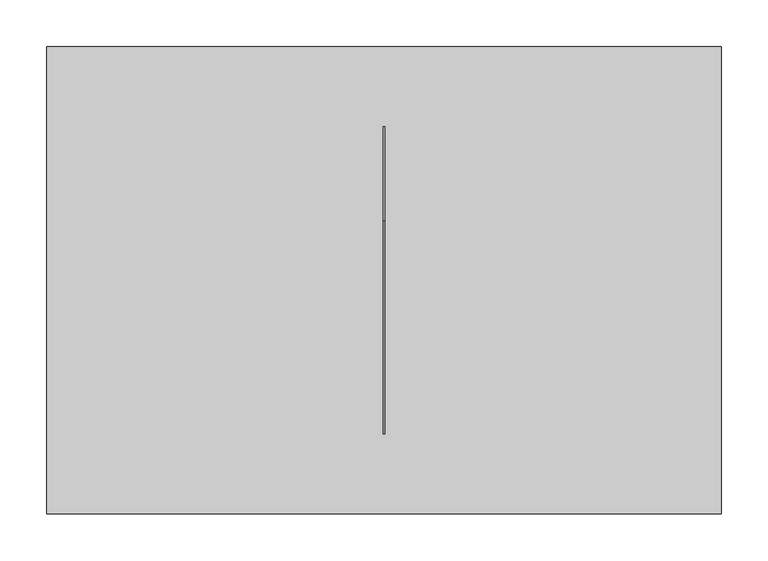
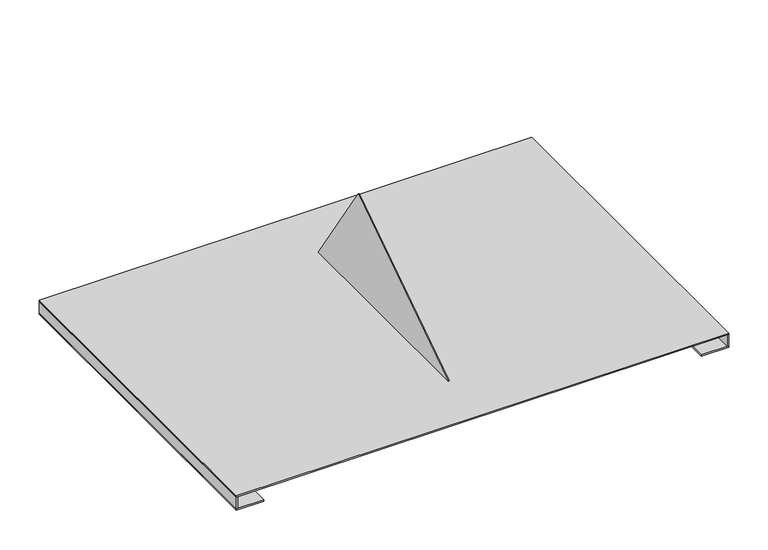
"""IFC4 building model written with IfcOpenShell, lengths in millimetres: furniture geometry, MDO_E_IX_Reloj de sol_PET : MDO_E_IX_Reloj de sol_PET."""

from ifc_helpers import new_model, si_unit, frame, origin, origin_with_axes, place, context, project, spatial, polyline, outline, extrude, source, transform, mapped, element, save


def furniture_0d6fb3f9(model_context):
    return source(origin(), model_context, "Body", "SweptSolid", [
        extrude(outline(polyline([(-358.0, 249.59988), (-358.0, -249.59988), (-360.0, -249.59988), (-360.0, 249.59988), (-358.0, 249.59988)])), frame((0.0, 0.0, 2.0), z_axis=(0.0, 0.0, 1.0), x_axis=(1.0, 0.0, 0.0)), (0.0, 0.0, 1.0), 18.0),
        extrude(outline(polyline([(360.0, 249.59988), (360.0, -249.59988), (358.0, -249.59988), (358.0, 249.59988), (360.0, 249.59988)])), frame((0.0, 0.0, 2.0), z_axis=(0.0, 0.0, 1.0), x_axis=(1.0, 0.0, 0.0)), (0.0, 0.0, 1.0), 18.0),
        extrude(outline(polyline([(-320.0, 249.59988), (-320.0, -249.59988), (-360.0, -249.59988), (-360.0, 249.59988), (-320.0, 249.59988)])), origin_with_axes(), (0.0, 0.0, 1.0), 2.0),
        extrude(outline(polyline([(360.0, 249.59988), (360.0, -249.59988), (320.0, -249.59988), (320.0, 249.59988), (360.0, 249.59988)])), origin_with_axes(), (0.0, 0.0, 1.0), 2.0),
        extrude(outline(polyline([(-164.2371745, 22.0), (63.9213255, 173.3609823), (164.2628255, 22.0), (-164.2371745, 22.0)])), frame((-1.0, 0.0, 0.0), z_axis=(1.0, 0.0, 0.0), x_axis=(0.0, 1.0, 0.0)), (0.0, 0.0, 1.0), 2.0),
        extrude(outline(polyline([(360.0, 249.59988), (360.0, -249.59988), (-360.0, -249.59988), (-360.0, 249.59988), (360.0, 249.59988)])), frame((0.0, 0.0, 20.0), z_axis=(0.0, 0.0, 1.0), x_axis=(1.0, 0.0, 0.0)), (0.0, 0.0, 1.0), 2.0),
    ])


if __name__ == "__main__":
    model = new_model("IFC4")
    model_context = context("Model", 3, world=origin())
    ifc_project = project(units=[si_unit("LENGTHUNIT", "METRE", prefix="MILLI")], contexts=[model_context])
    site = spatial("IfcSite", under=ifc_project)
    building = spatial("IfcBuilding", under=site)
    placement = place(None, origin())
    furniture_shape = furniture_0d6fb3f9(model_context)
    element("IfcFurniture", 1, ObjectType="MDO_E_IX_Reloj de sol_PET : MDO_E_IX_Reloj de sol_PET", at=placement, inside=building, context=model_context, shape_type="MappedRepresentation", body=[
        mapped(furniture_shape, transform((0.0, 0.0, 0.0), x_axis=(1.0, 0.0, 0.0), y_axis=(0.0, 1.0, 0.0), z_axis=(0.0, 0.0, 1.0))),
    ])
    save(model, "model.ifc")
